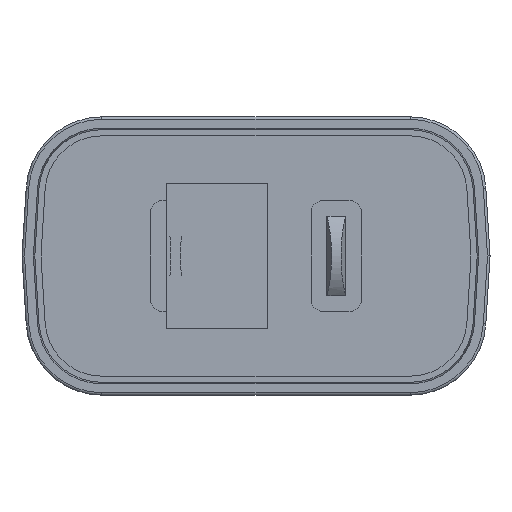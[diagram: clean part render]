
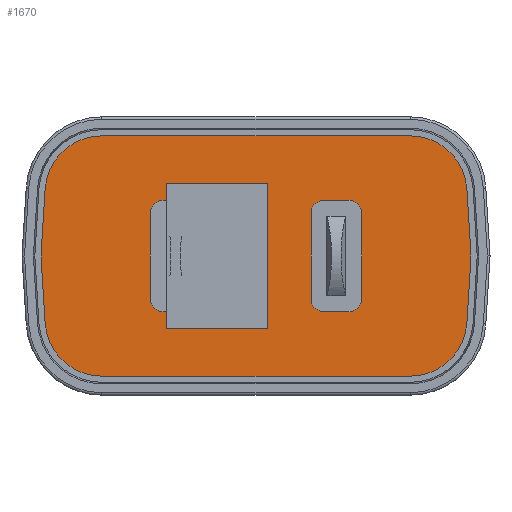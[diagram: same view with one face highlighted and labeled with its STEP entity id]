
A CAD part, front view. The second image highlights one B-rep face of the part: STEP entity #1670.
In plain terms, the highlighted planar face has unit normal (0, -1, 0).
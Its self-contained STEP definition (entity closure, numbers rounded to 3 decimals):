
#5=DIRECTION('',(-0.061,0.,0.998));
#6=VECTOR('',#5,5.285);
#7=CARTESIAN_POINT('',(-16.675,-52.,-5.275));
#8=LINE('',#7,#6);
#9=DIRECTION('',(0.061,0.,0.998));
#10=VECTOR('',#9,5.285);
#11=CARTESIAN_POINT('',(-16.997,-52.,0.));
#12=LINE('',#11,#10);
#13=CARTESIAN_POINT('',(-12.183,-52.,5.));
#14=DIRECTION('',(0.,1.,0.));
#15=DIRECTION('',(-0.998,0.,0.061));
#16=AXIS2_PLACEMENT_3D('',#13,#14,#15);
#18=CARTESIAN_POINT('',(12.183,-52.,5.));
#19=DIRECTION('',(0.,1.,0.));
#20=DIRECTION('',(0.,0.,1.));
#21=AXIS2_PLACEMENT_3D('',#18,#19,#20);
#23=DIRECTION('',(0.061,0.,-0.998));
#24=VECTOR('',#23,5.285);
#25=CARTESIAN_POINT('',(16.675,-52.,5.275));
#26=LINE('',#25,#24);
#27=DIRECTION('',(-0.061,0.,-0.998));
#28=VECTOR('',#27,5.285);
#29=CARTESIAN_POINT('',(16.997,-52.,0.));
#30=LINE('',#29,#28);
#31=CARTESIAN_POINT('',(12.183,-52.,-5.));
#32=DIRECTION('',(0.,1.,0.));
#33=DIRECTION('',(0.998,0.,-0.061));
#34=AXIS2_PLACEMENT_3D('',#31,#32,#33);
#36=CARTESIAN_POINT('',(-12.183,-52.,-5.));
#37=DIRECTION('',(0.,1.,0.));
#38=DIRECTION('',(0.,0.,-1.));
#39=AXIS2_PLACEMENT_3D('',#36,#37,#38);
#41=CARTESIAN_POINT('',(-5.35,-52.,-3.4));
#42=DIRECTION('',(0.,-1.,0.));
#43=DIRECTION('',(0.,0.,-1.));
#44=AXIS2_PLACEMENT_3D('',#41,#42,#43);
#46=CARTESIAN_POINT('',(-5.35,-52.,3.4));
#47=DIRECTION('',(0.,-1.,0.));
#48=DIRECTION('',(1.,0.,0.));
#49=AXIS2_PLACEMENT_3D('',#46,#47,#48);
#51=CARTESIAN_POINT('',(-7.35,-52.,3.4));
#52=DIRECTION('',(0.,-1.,0.));
#53=DIRECTION('',(0.,0.,1.));
#54=AXIS2_PLACEMENT_3D('',#51,#52,#53);
#56=CARTESIAN_POINT('',(-7.35,-52.,-3.4));
#57=DIRECTION('',(0.,-1.,0.));
#58=DIRECTION('',(-1.,0.,0.));
#59=AXIS2_PLACEMENT_3D('',#56,#57,#58);
#61=CARTESIAN_POINT('',(5.35,-52.,3.4));
#62=DIRECTION('',(0.,-1.,0.));
#63=DIRECTION('',(0.,0.,1.));
#64=AXIS2_PLACEMENT_3D('',#61,#62,#63);
#66=CARTESIAN_POINT('',(5.35,-52.,-3.4));
#67=DIRECTION('',(0.,-1.,0.));
#68=DIRECTION('',(-1.,0.,0.));
#69=AXIS2_PLACEMENT_3D('',#66,#67,#68);
#71=CARTESIAN_POINT('',(7.35,-52.,-3.4));
#72=DIRECTION('',(0.,-1.,0.));
#73=DIRECTION('',(0.,0.,-1.));
#74=AXIS2_PLACEMENT_3D('',#71,#72,#73);
#76=CARTESIAN_POINT('',(7.35,-52.,3.4));
#77=DIRECTION('',(0.,-1.,0.));
#78=DIRECTION('',(1.,0.,0.));
#79=AXIS2_PLACEMENT_3D('',#76,#77,#78);
#925=DIRECTION('',(1.,0.,0.));
#926=VECTOR('',#925,24.366);
#927=CARTESIAN_POINT('',(-12.183,-52.,-9.5));
#928=LINE('',#927,#926);
#949=DIRECTION('',(-1.,0.,0.));
#950=VECTOR('',#949,24.366);
#951=CARTESIAN_POINT('',(12.183,-52.,9.5));
#952=LINE('',#951,#950);
#961=DIRECTION('',(-1.,0.,0.));
#962=VECTOR('',#961,2.);
#963=CARTESIAN_POINT('',(-5.35,-52.,-4.4));
#964=LINE('',#963,#962);
#1025=DIRECTION('',(0.,0.,1.));
#1026=VECTOR('',#1025,6.8);
#1027=CARTESIAN_POINT('',(-8.35,-52.,-3.4));
#1028=LINE('',#1027,#1026);
#1037=DIRECTION('',(1.,0.,0.));
#1038=VECTOR('',#1037,2.);
#1039=CARTESIAN_POINT('',(-7.35,-52.,4.4));
#1040=LINE('',#1039,#1038);
#1049=DIRECTION('',(0.,0.,-1.));
#1050=VECTOR('',#1049,6.8);
#1051=CARTESIAN_POINT('',(-4.35,-52.,3.4));
#1052=LINE('',#1051,#1050);
#1109=DIRECTION('',(1.,0.,0.));
#1110=VECTOR('',#1109,2.);
#1111=CARTESIAN_POINT('',(5.35,-52.,4.4));
#1112=LINE('',#1111,#1110);
#1165=DIRECTION('',(0.,0.,-1.));
#1166=VECTOR('',#1165,6.8);
#1167=CARTESIAN_POINT('',(8.35,-52.,3.4));
#1168=LINE('',#1167,#1166);
#1177=DIRECTION('',(-1.,0.,0.));
#1178=VECTOR('',#1177,2.);
#1179=CARTESIAN_POINT('',(7.35,-52.,-4.4));
#1180=LINE('',#1179,#1178);
#1189=DIRECTION('',(0.,0.,1.));
#1190=VECTOR('',#1189,6.8);
#1191=CARTESIAN_POINT('',(4.35,-52.,-3.4));
#1192=LINE('',#1191,#1190);
#1476=CARTESIAN_POINT('',(-16.675,-52.,-5.275));
#1477=CARTESIAN_POINT('',(-16.997,-52.,0.));
#1478=VERTEX_POINT('',#1476);
#1479=VERTEX_POINT('',#1477);
#1480=CARTESIAN_POINT('',(-16.675,-52.,5.275));
#1481=VERTEX_POINT('',#1480);
#1482=CARTESIAN_POINT('',(-12.183,-52.,9.5));
#1483=VERTEX_POINT('',#1482);
#1484=CARTESIAN_POINT('',(12.183,-52.,9.5));
#1485=VERTEX_POINT('',#1484);
#1486=CARTESIAN_POINT('',(16.675,-52.,5.275));
#1487=VERTEX_POINT('',#1486);
#1488=CARTESIAN_POINT('',(16.997,-52.,0.));
#1489=VERTEX_POINT('',#1488);
#1490=CARTESIAN_POINT('',(16.675,-52.,-5.275));
#1491=VERTEX_POINT('',#1490);
#1492=CARTESIAN_POINT('',(12.183,-52.,-9.5));
#1493=VERTEX_POINT('',#1492);
#1494=CARTESIAN_POINT('',(-12.183,-52.,-9.5));
#1495=VERTEX_POINT('',#1494);
#1496=CARTESIAN_POINT('',(-5.35,-52.,-4.4));
#1497=CARTESIAN_POINT('',(-7.35,-52.,-4.4));
#1498=VERTEX_POINT('',#1496);
#1499=VERTEX_POINT('',#1497);
#1500=CARTESIAN_POINT('',(-4.35,-52.,-3.4));
#1501=VERTEX_POINT('',#1500);
#1502=CARTESIAN_POINT('',(-4.35,-52.,3.4));
#1503=VERTEX_POINT('',#1502);
#1504=CARTESIAN_POINT('',(-5.35,-52.,4.4));
#1505=VERTEX_POINT('',#1504);
#1506=CARTESIAN_POINT('',(-7.35,-52.,4.4));
#1507=VERTEX_POINT('',#1506);
#1508=CARTESIAN_POINT('',(-8.35,-52.,3.4));
#1509=VERTEX_POINT('',#1508);
#1510=CARTESIAN_POINT('',(-8.35,-52.,-3.4));
#1511=VERTEX_POINT('',#1510);
#1512=CARTESIAN_POINT('',(5.35,-52.,4.4));
#1513=CARTESIAN_POINT('',(7.35,-52.,4.4));
#1514=VERTEX_POINT('',#1512);
#1515=VERTEX_POINT('',#1513);
#1516=CARTESIAN_POINT('',(4.35,-52.,3.4));
#1517=VERTEX_POINT('',#1516);
#1518=CARTESIAN_POINT('',(4.35,-52.,-3.4));
#1519=VERTEX_POINT('',#1518);
#1520=CARTESIAN_POINT('',(5.35,-52.,-4.4));
#1521=VERTEX_POINT('',#1520);
#1522=CARTESIAN_POINT('',(7.35,-52.,-4.4));
#1523=VERTEX_POINT('',#1522);
#1524=CARTESIAN_POINT('',(8.35,-52.,-3.4));
#1525=VERTEX_POINT('',#1524);
#1526=CARTESIAN_POINT('',(8.35,-52.,3.4));
#1527=VERTEX_POINT('',#1526);
#1608=CARTESIAN_POINT('',(0.,-52.,18.));
#1609=DIRECTION('',(0.,1.,0.));
#1610=DIRECTION('',(1.,0.,0.));
#1611=AXIS2_PLACEMENT_3D('',#1608,#1609,#1610);
#1612=PLANE('',#1611);
#1613=ORIENTED_EDGE('',*,*,#1597,.T.);
#1615=ORIENTED_EDGE('',*,*,#1614,.T.);
#1617=ORIENTED_EDGE('',*,*,#1616,.T.);
#1619=ORIENTED_EDGE('',*,*,#1618,.F.);
#1621=ORIENTED_EDGE('',*,*,#1620,.T.);
#1623=ORIENTED_EDGE('',*,*,#1622,.T.);
#1625=ORIENTED_EDGE('',*,*,#1624,.T.);
#1627=ORIENTED_EDGE('',*,*,#1626,.T.);
#1629=ORIENTED_EDGE('',*,*,#1628,.F.);
#1631=ORIENTED_EDGE('',*,*,#1630,.T.);
#1632=EDGE_LOOP('',(#1613,#1615,#1617,#1619,#1621,#1623,#1625,#1627,#1629,
#1631));
#1633=FACE_OUTER_BOUND('',#1632,.F.);
#1635=ORIENTED_EDGE('',*,*,#1634,.F.);
#1637=ORIENTED_EDGE('',*,*,#1636,.T.);
#1639=ORIENTED_EDGE('',*,*,#1638,.F.);
#1641=ORIENTED_EDGE('',*,*,#1640,.T.);
#1643=ORIENTED_EDGE('',*,*,#1642,.F.);
#1645=ORIENTED_EDGE('',*,*,#1644,.T.);
#1647=ORIENTED_EDGE('',*,*,#1646,.F.);
#1649=ORIENTED_EDGE('',*,*,#1648,.T.);
#1650=EDGE_LOOP('',(#1635,#1637,#1639,#1641,#1643,#1645,#1647,#1649));
#1651=FACE_BOUND('',#1650,.F.);
#1653=ORIENTED_EDGE('',*,*,#1652,.F.);
#1655=ORIENTED_EDGE('',*,*,#1654,.T.);
#1657=ORIENTED_EDGE('',*,*,#1656,.F.);
#1659=ORIENTED_EDGE('',*,*,#1658,.T.);
#1661=ORIENTED_EDGE('',*,*,#1660,.F.);
#1663=ORIENTED_EDGE('',*,*,#1662,.T.);
#1665=ORIENTED_EDGE('',*,*,#1664,.F.);
#1667=ORIENTED_EDGE('',*,*,#1666,.T.);
#1668=EDGE_LOOP('',(#1653,#1655,#1657,#1659,#1661,#1663,#1665,#1667));
#1669=FACE_BOUND('',#1668,.F.);
#1670=ADVANCED_FACE('',(#1633,#1651,#1669),#1612,.F.);
#17=CIRCLE('',#16,4.5);
#22=CIRCLE('',#21,4.5);
#35=CIRCLE('',#34,4.5);
#40=CIRCLE('',#39,4.5);
#45=CIRCLE('',#44,1.);
#50=CIRCLE('',#49,1.);
#55=CIRCLE('',#54,1.);
#60=CIRCLE('',#59,1.);
#65=CIRCLE('',#64,1.);
#70=CIRCLE('',#69,1.);
#75=CIRCLE('',#74,1.);
#80=CIRCLE('',#79,1.);
#1597=EDGE_CURVE('',#1478,#1479,#8,.T.);
#1614=EDGE_CURVE('',#1479,#1481,#12,.T.);
#1616=EDGE_CURVE('',#1481,#1483,#17,.T.);
#1618=EDGE_CURVE('',#1485,#1483,#952,.T.);
#1620=EDGE_CURVE('',#1485,#1487,#22,.T.);
#1622=EDGE_CURVE('',#1487,#1489,#26,.T.);
#1624=EDGE_CURVE('',#1489,#1491,#30,.T.);
#1626=EDGE_CURVE('',#1491,#1493,#35,.T.);
#1628=EDGE_CURVE('',#1495,#1493,#928,.T.);
#1630=EDGE_CURVE('',#1495,#1478,#40,.T.);
#1634=EDGE_CURVE('',#1498,#1499,#964,.T.);
#1636=EDGE_CURVE('',#1498,#1501,#45,.T.);
#1638=EDGE_CURVE('',#1503,#1501,#1052,.T.);
#1640=EDGE_CURVE('',#1503,#1505,#50,.T.);
#1642=EDGE_CURVE('',#1507,#1505,#1040,.T.);
#1644=EDGE_CURVE('',#1507,#1509,#55,.T.);
#1646=EDGE_CURVE('',#1511,#1509,#1028,.T.);
#1648=EDGE_CURVE('',#1511,#1499,#60,.T.);
#1652=EDGE_CURVE('',#1514,#1515,#1112,.T.);
#1654=EDGE_CURVE('',#1514,#1517,#65,.T.);
#1656=EDGE_CURVE('',#1519,#1517,#1192,.T.);
#1658=EDGE_CURVE('',#1519,#1521,#70,.T.);
#1660=EDGE_CURVE('',#1523,#1521,#1180,.T.);
#1662=EDGE_CURVE('',#1523,#1525,#75,.T.);
#1664=EDGE_CURVE('',#1527,#1525,#1168,.T.);
#1666=EDGE_CURVE('',#1527,#1515,#80,.T.);
